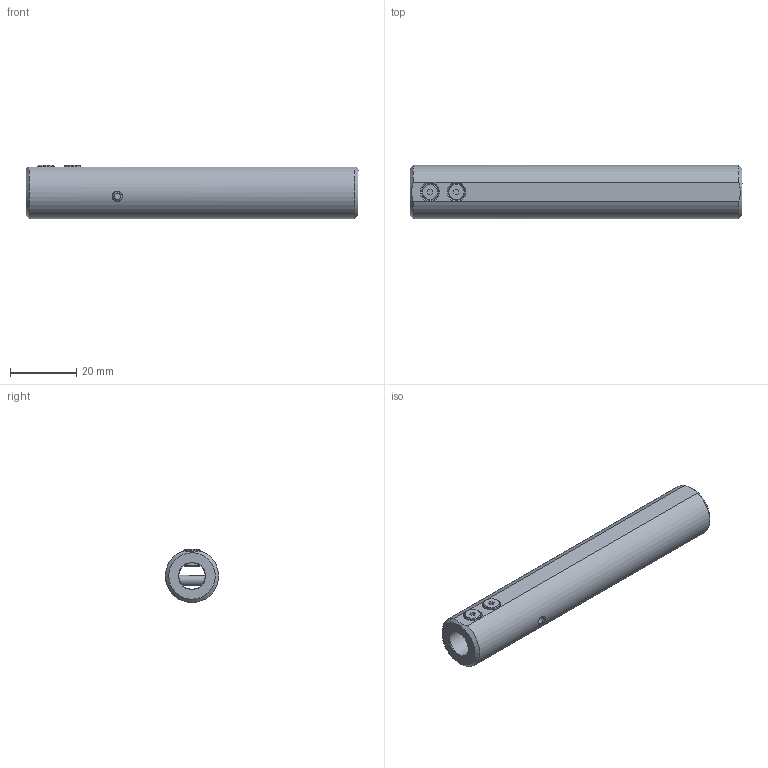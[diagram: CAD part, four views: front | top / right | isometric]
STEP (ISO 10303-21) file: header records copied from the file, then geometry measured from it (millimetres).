
FILE_DESCRIPTION(/* description */ (''),/* implementation_level */ '2;1');
FILE_NAME(/* name */ 'WEBDA_E00014433_00_Kunde.stp',/* time_stamp */ '2021-08-27T09:44:10+02:00',/* author */ (''),/* organization */ (''),/* preprocessor_version */ 'ST-DEVELOPER v16',/* originating_system */ 'SIEMENS PLM Software NX 11.0',/* authorisation */ '');
FILE_SCHEMA (('AUTOMOTIVE_DESIGN { 1 0 10303 214 3 1 1 1 }'));
Length unit declared in the file: millimetre
Products named in the file (1): ja.h57A4200Ahgle
Bounding box: 100 x 16 x 16 mm (x, y, z)
Volume: 14379.4 mm3; surface area: 8052.8 mm2
Topology: 1 solids, 1 shells, 58 faces, 142 edges, 95 vertices
Faces by surface type: plane 29, cylinder 16, cone 13
Full cylindrical faces by diameter (mm): 3 x3, 3.1 x4, 5 x2, 8 x1, 8.6 x1
Entity records: 1888 total; most frequent: CARTESIAN_POINT 683, DIRECTION 230, ORIENTED_EDGE 204, EDGE_CURVE 102, EDGE_LOOP 96, AXIS2_PLACEMENT_3D 94, VERTEX_POINT 80, FACE_BOUND 71
